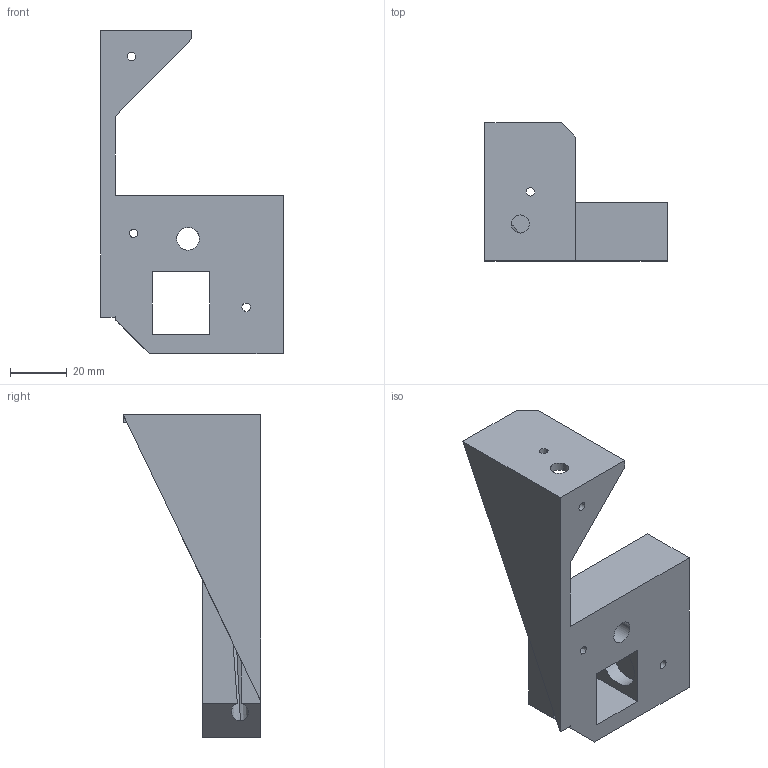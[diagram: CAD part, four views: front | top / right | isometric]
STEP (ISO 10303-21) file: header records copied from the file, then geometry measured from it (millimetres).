
FILE_DESCRIPTION(/* description */ (''),/* implementation_level */ '2;1');
FILE_NAME(/* name */ 'SOPORT~2',/* time_stamp */ '2019-04-01T20:09:40-03:00',/* author */ (''),/* organization */ (''),/* preprocessor_version */ 'ST-DEVELOPER v16.5',/* originating_system */ '',/* authorisation */ '');
FILE_SCHEMA (('AUTOMOTIVE_DESIGN'));
Length unit declared in the file: millimetre
Products named in the file (1): Document
Bounding box: 64 x 48.38 x 113.51 mm (x, y, z)
Volume: 74131.9 mm3; surface area: 23402.1 mm2
Topology: 1 solids, 1 shells, 48 faces, 133 edges, 87 vertices
Faces by surface type: plane 26, bspline 22
Entity records: 3790 total; most frequent: CARTESIAN_POINT 2947, ORIENTED_EDGE 266, EDGE_CURVE 133, VERTEX_POINT 87, B_SPLINE_CURVE_WITH_KNOTS 74, EDGE_LOOP 66, ADVANCED_FACE 48, FACE_OUTER_BOUND 48
